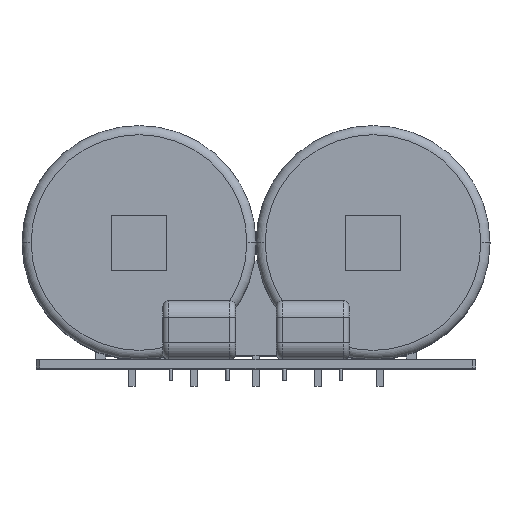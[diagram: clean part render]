
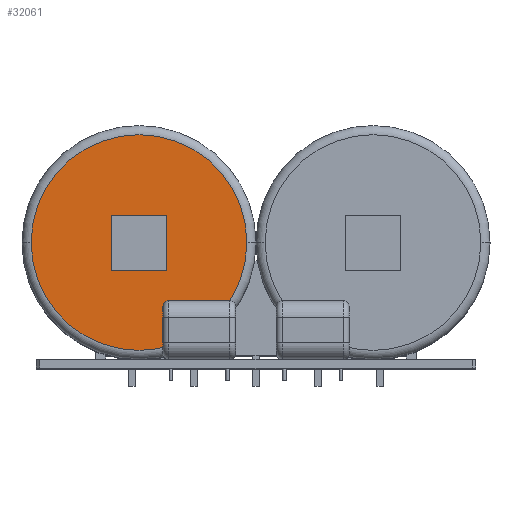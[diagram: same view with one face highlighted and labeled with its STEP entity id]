
A CAD part, top view. The second image highlights one B-rep face of the part: STEP entity #32061.
In plain terms, the highlighted planar face has unit normal (0, 0, 1).
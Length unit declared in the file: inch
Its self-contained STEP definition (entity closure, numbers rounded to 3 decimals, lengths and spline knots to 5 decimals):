
#31684=CARTESIAN_POINT('',(0.725,0.88701,-0.59673));
#31685=DIRECTION('',(0.,0.,1.));
#31686=DIRECTION('',(1.,0.,0.));
#31687=AXIS2_PLACEMENT_3D('',#31684,#31685,#31686);
#31692=CARTESIAN_POINT('',(0.725,0.88701,-0.59673));
#31693=DIRECTION('',(0.,0.,1.));
#31694=DIRECTION('',(-1.,0.,0.));
#31695=AXIS2_PLACEMENT_3D('',#31692,#31693,#31694);
#31700=DIRECTION('',(-1.,0.,0.));
#31701=VECTOR('',#31700,0.388);
#31702=CARTESIAN_POINT('',(0.919,0.69301,-0.59673));
#31703=LINE('',#31702,#31701);
#31707=DIRECTION('',(0.,-1.,0.));
#31708=VECTOR('',#31707,0.388);
#31709=CARTESIAN_POINT('',(0.919,1.08101,-0.59673));
#31710=LINE('',#31709,#31708);
#31714=DIRECTION('',(1.,0.,0.));
#31715=VECTOR('',#31714,0.388);
#31716=CARTESIAN_POINT('',(0.531,1.08101,-0.59673));
#31717=LINE('',#31716,#31715);
#31721=DIRECTION('',(0.,1.,0.));
#31722=VECTOR('',#31721,0.388);
#31723=CARTESIAN_POINT('',(0.531,0.69301,-0.59673));
#31724=LINE('',#31723,#31722);
#31839=CARTESIAN_POINT('',(0.531,0.69301,-0.59673));
#31840=CARTESIAN_POINT('',(0.531,1.08101,-0.59673));
#31841=VERTEX_POINT('',#31839);
#31842=VERTEX_POINT('',#31840);
#31857=CARTESIAN_POINT('',(1.4855,0.88701,-0.59673));
#31858=VERTEX_POINT('',#31857);
#31871=CARTESIAN_POINT('',(0.919,0.69301,-0.59673));
#31872=VERTEX_POINT('',#31871);
#31873=CARTESIAN_POINT('',(0.919,1.08101,-0.59673));
#31874=VERTEX_POINT('',#31873);
#31879=CARTESIAN_POINT('',(-0.0355,0.88701,-0.59673));
#31880=VERTEX_POINT('',#31879);
#32042=CARTESIAN_POINT('',(0.725,0.88701,-0.59673));
#32043=DIRECTION('',(0.,0.,1.));
#32044=DIRECTION('',(1.,0.,0.));
#32045=AXIS2_PLACEMENT_3D('',#32042,#32043,#32044);
#32046=PLANE('',#32045);
#32047=ORIENTED_EDGE('',*,*,#32007,.F.);
#32048=ORIENTED_EDGE('',*,*,#32027,.F.);
#32049=EDGE_LOOP('',(#32047,#32048));
#32050=FACE_OUTER_BOUND('',#32049,.F.);
#32052=ORIENTED_EDGE('',*,*,#32051,.F.);
#32054=ORIENTED_EDGE('',*,*,#32053,.F.);
#32056=ORIENTED_EDGE('',*,*,#32055,.F.);
#32058=ORIENTED_EDGE('',*,*,#32057,.F.);
#32059=EDGE_LOOP('',(#32052,#32054,#32056,#32058));
#32060=FACE_BOUND('',#32059,.F.);
#31688=CIRCLE('',#31687,0.7605);
#31696=CIRCLE('',#31695,0.7605);
#32007=EDGE_CURVE('',#31858,#31880,#31688,.T.);
#32027=EDGE_CURVE('',#31880,#31858,#31696,.T.);
#32051=EDGE_CURVE('',#31872,#31841,#31703,.T.);
#32053=EDGE_CURVE('',#31874,#31872,#31710,.T.);
#32055=EDGE_CURVE('',#31842,#31874,#31717,.T.);
#32057=EDGE_CURVE('',#31841,#31842,#31724,.T.);
#32061=ADVANCED_FACE('',(#32050,#32060),#32046,.T.);
